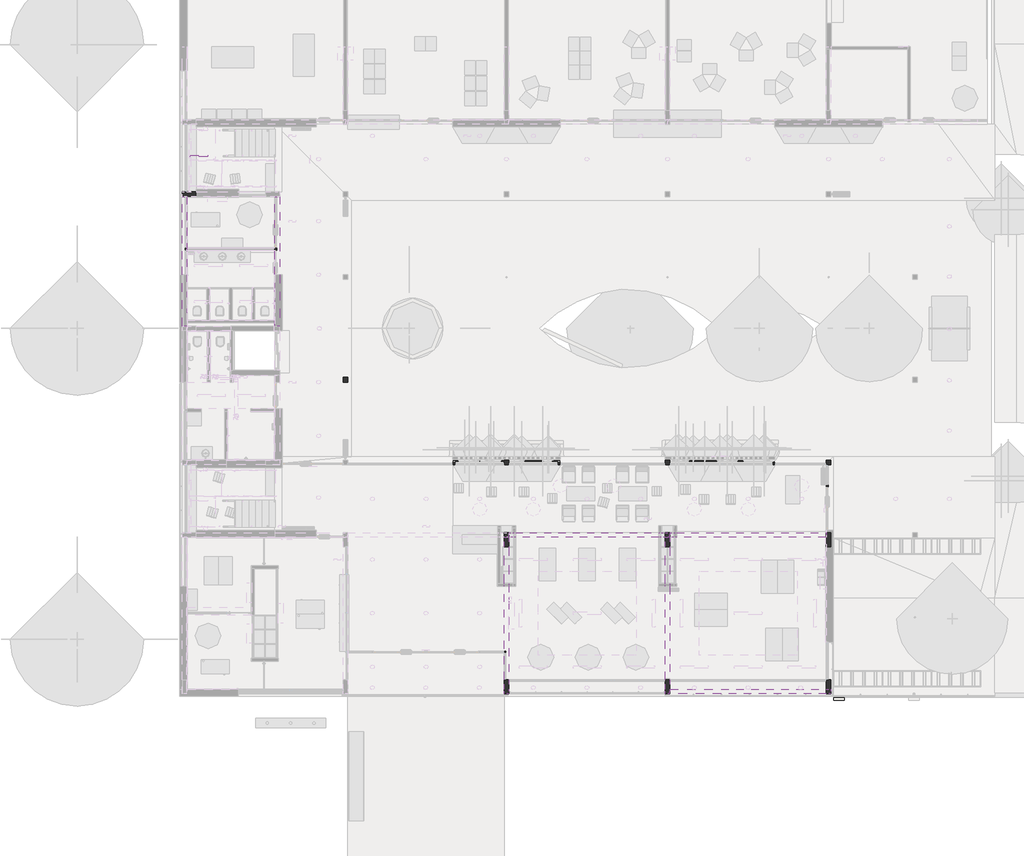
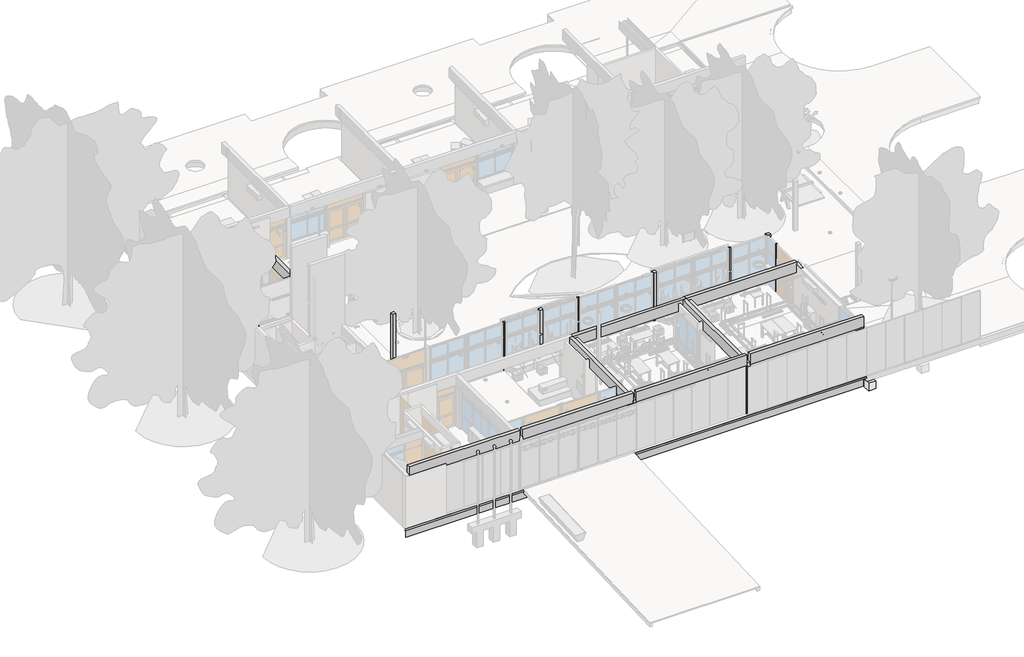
# One storey, part 13 of 22: 27 beams, 18 columns, 1 slab.
"""IFC4 building model written with IfcOpenShell, lengths in millimetres."""

from ifc_helpers import new_model, si_unit, frame, origin, origin_with_axes, place, context, project, spatial, polyline, outline, extrude, faceted_brep, transform, mapped, element, save
from components import perfil_upn_120_pet_31115f7d, pilar_acero_10x10cm_pet_07589721

model = new_model("IFC4")

# Units and contexts
model_context = context("Model", 3, world=origin())
ifc_project = project(units=[si_unit("LENGTHUNIT", "METRE", prefix="MILLI")], contexts=[model_context])

# Site, building, storey
site = spatial("IfcSite", under=ifc_project)
building = spatial("IfcBuilding", under=site)
storey = spatial("IfcBuildingStorey", under=building, Name="PLanta baja", Elevation=0.0)

# Beams
placement = place(None, origin())
element("IfcBeam", 1, ObjectType="ARES-I-HA-Viga con aleta-PET : Viga fundación-20x65cm-aleta11x11cm-PET", at=placement, inside=storey, context=model_context, shape_type="Brep", body=[
    faceted_brep([(3098.7173693, 230.2304035, -150.0), (3108.7173693, 240.2304035, -160.0), (31068.7173693, 240.2304035, -160.0), (31078.7173693, 230.2304035, -150.0), (3088.7173693, 220.2304035, -160.0), (31088.7173693, 220.2304035, -160.0), (3078.7173693, 210.2304035, -160.0), (31098.7173693, 210.2304035, -160.0), (3078.7173693, 210.2304035, -50.0), (31098.7173693, 210.2304035, -50.0), (3388.7173693, 520.2304035, -50.0), (30788.7173693, 520.2304035, -50.0), (27513.7173693, 520.2304035, -50.0), (27363.7173693, 520.2304035, -50.0), (24088.7173694, 520.2304035, -50.0), (23888.7173694, 520.2304035, -50.0), (20613.7173694, 520.2304035, -50.0), (20463.7173694, 520.2304035, -50.0), (17188.7173694, 520.2304035, -50.0), (16988.7173694, 520.2304035, -50.0), (13713.7173693, 520.2304035, -50.0), (13563.7173693, 520.2304035, -50.0), (10288.7173694, 520.2304035, -50.0), (10088.7173694, 520.2304035, -50.0), (6813.7173693, 520.2304035, -50.0), (6663.7173693, 520.2304035, -50.0), (3388.7173693, 520.2304035, -700.0), (30788.7173693, 520.2304035, -700.0), (24088.7173694, 520.2304035, -700.0), (23888.7173694, 520.2304035, -700.0), (17188.7173694, 520.2304035, -700.0), (16988.7173694, 520.2304035, -700.0), (10288.7173694, 520.2304035, -700.0), (10088.7173694, 520.2304035, -700.0), (3188.7173693, 320.2304035, -700.0), (30988.7173693, 320.2304035, -700.0), (3188.7173693, 320.2304035, -160.0), (30988.7173693, 320.2304035, -160.0)], [[[0, 1, 2, 3]], [[4, 0, 3, 5]], [[6, 4, 5, 7]], [[8, 6, 7, 9]], [[10, 8, 9, 11, 12, 13, 14, 15, 16, 17, 18, 19, 20, 21, 22, 23, 24, 25]], [[26, 10, 25, 24, 23, 22, 21, 20, 19, 18, 17, 16, 15, 14, 13, 12, 11, 27, 28, 29, 30, 31, 32, 33]], [[34, 26, 33, 32, 31, 30, 29, 28, 27, 35]], [[36, 34, 35, 37]], [[1, 36, 37, 2]], [[1, 0, 4, 6, 8, 10, 26, 34, 36]], [[2, 37, 35, 27, 11, 9, 7, 5, 3]]]),
])
element("IfcBeam", 2, ObjectType="ARES-I-HA-Viga con aleta-PET : Viga fundación-20x65cm-aleta11x11cm-PET", at=placement, inside=storey, context=model_context, shape_type="Brep", body=[
    faceted_brep([(31068.7173693, 7220.0804035, -160.0), (30988.7173693, 7220.0804035, -160.0), (30988.7173693, 7220.0804035, -300.0), (30988.7173693, 7220.0804035, -550.0), (30988.7173693, 7220.0804035, -700.0), (30788.7173693, 7220.0804035, -700.0), (30788.7173693, 7220.0804035, -550.0), (30788.7173693, 7220.0804035, -50.0), (30988.7173693, 7220.0804035, -50.0), (31098.7173693, 7220.0804035, -50.0), (31098.7173693, 7220.0804035, -160.0), (31088.7173693, 7220.0804035, -160.0), (31078.7173693, 7220.0804035, -150.0), (31078.7173693, 230.2304035, -150.0), (31068.7173693, 240.2304035, -160.0), (31088.7173693, 220.2304035, -160.0), (31098.7173693, 210.2304035, -160.0), (31098.7173693, 210.2304035, -50.0), (31098.7173693, 210.2304035, -54.9988162), (30788.7173693, 7020.2304035, -50.0), (30788.7173693, 6620.2304035, -50.0), (30788.7173693, 3843.5637368, -50.0), (30788.7173693, 3693.5637368, -50.0), (30788.7173693, 920.2304035, -50.0), (30788.7173693, 520.2304035, -50.0), (30788.7173693, 7020.2304035, -700.0), (30788.7173693, 520.2304035, -700.0), (30788.7173693, 520.2304035, -510.0), (30988.7173693, 7020.2304035, -700.0), (30988.7173693, 320.2304035, -700.0), (30988.7173693, 320.2304035, -160.0)], [[[0, 1, 2, 3, 4, 5, 6, 7, 8, 9, 10, 11, 12]], [[0, 12, 13, 14]], [[12, 11, 15, 13]], [[11, 10, 16, 15]], [[10, 9, 17, 18, 16]], [[9, 8, 7, 19, 20, 21, 22, 23, 24, 17]], [[7, 6, 5, 25, 26, 27, 24, 23, 22, 21, 20, 19]], [[5, 4, 28, 29, 26, 25]], [[4, 3, 2, 1, 30, 29, 28]], [[1, 0, 14, 30]], [[14, 13, 15, 16, 18, 17, 24, 27, 26, 29, 30]]]),
])
perfil_upn_120_pet_shape = perfil_upn_120_pet_31115f7d(model_context)
element("IfcBeam", 3, ObjectType="ARES-I-AC-UPN-Perfil acero-PET : Perfil UPN-120-PET", at=placement, inside=storey, context=model_context, shape_type="MappedRepresentation", body=[
    mapped(perfil_upn_120_pet_shape, transform((3910.6625244, 23364.2304035, 1673.8421053), x_axis=(-1.0, 0.0, 0.0), y_axis=(0.0, -1.0, 0.0), z_axis=(0.0, 0.0, 1.0))),
])
element("IfcBeam", 4, ObjectType="ARES-I-HA-Viga rectangular-PET : Viga-15x36cm-PET", at=placement, inside=storey, context=model_context, shape_type="Brep", body=[
    faceted_brep([(30788.7173693, 3693.5637368, -50.0), (30788.7173693, 3843.5637368, -50.0), (27513.7173693, 3843.5637368, -50.0), (27363.7173693, 3843.5637368, -50.0), (24088.7173694, 3843.5637368, -50.0), (24088.7173694, 3693.5637368, -50.0), (27363.7173693, 3693.5637368, -50.0), (27513.7173693, 3693.5637368, -50.0), (24088.7173694, 3693.5637368, -410.0), (27363.7173693, 3693.5637368, -410.0), (27513.7173693, 3693.5637368, -410.0), (30788.7173693, 3693.5637368, -410.0), (30788.7173693, 3693.5637368, -160.0), (24088.7173694, 3693.5637368, -160.0), (30788.7173693, 3843.5637368, -410.0), (24088.7173694, 3843.5637368, -410.0), (27363.7173693, 3843.5637368, -410.0), (27513.7173693, 3843.5637368, -410.0), (24088.7173694, 3843.5637368, -160.0), (30788.7173693, 3843.5637368, -160.0)], [[[0, 1, 2, 3, 4, 5, 6, 7]], [[8, 9, 10, 11, 12, 0, 7, 6, 5, 13]], [[14, 11, 10, 9, 8, 15, 16, 17]], [[14, 17, 16, 15, 18, 4, 3, 2, 1, 19]], [[1, 0, 12, 11, 14, 19]], [[5, 4, 18, 15, 8, 13]]]),
])
element("IfcBeam", 5, ObjectType="ARES-I-HA-Viga rectangular-PET : Viga-15x36cm-PET", at=placement, inside=storey, context=model_context, shape_type="Brep", body=[
    faceted_brep([(27513.7173693, 3693.5637368, -50.0), (27363.7173693, 3693.5637368, -50.0), (27363.7173693, 520.2304035, -50.0), (27513.7173693, 520.2304035, -50.0), (27363.7173693, 3693.5637368, -160.0), (27363.7173693, 3693.5637368, -410.0), (27363.7173693, 520.2304035, -410.0), (27363.7173693, 520.2304035, -160.0), (27513.7173693, 3693.5637368, -410.0), (27513.7173693, 520.2304035, -410.0), (27513.7173693, 520.2304035, -160.0), (27513.7173693, 3693.5637368, -160.0)], [[[0, 1, 2, 3]], [[2, 1, 4, 5, 6, 7]], [[5, 8, 9, 6]], [[0, 3, 10, 9, 8, 11]], [[8, 5, 4, 1, 0, 11]], [[3, 2, 7, 6, 9, 10]]]),
    faceted_brep([(27363.7173693, 3843.5637368, -410.0), (27513.7173693, 3843.5637368, -410.0), (27513.7173693, 3843.5637368, -160.0), (27513.7173693, 3843.5637368, -50.0), (27363.7173693, 3843.5637368, -50.0), (27363.7173693, 3843.5637368, -160.0), (27363.7173693, 7020.2304035, -50.0), (27363.7173693, 7020.2304035, -160.0), (27363.7173693, 7020.2304035, -410.0), (27513.7173693, 7020.2304035, -410.0), (27513.7173693, 7020.2304035, -160.0), (27513.7173693, 7020.2304035, -50.0)], [[[0, 1, 2, 3, 4, 5]], [[4, 6, 7, 8, 0, 5]], [[1, 0, 8, 9]], [[1, 9, 10, 11, 3, 2]], [[4, 3, 11, 6]], [[9, 8, 7, 6, 11, 10]]]),
])
element("IfcBeam", 6, ObjectType="ARES-I-HA-Viga rectangular-PET : Viga-15x36cm-PET", at=placement, inside=storey, context=model_context, shape_type="Brep", body=[
    faceted_brep([(17188.7173694, 3843.5637368, -50.0), (17188.7173694, 3693.5637368, -50.0), (20463.7173694, 3693.5637368, -50.0), (20613.7173694, 3693.5637368, -50.0), (23888.7173694, 3693.5637368, -50.0), (23888.7173694, 3843.5637368, -50.0), (20613.7173694, 3843.5637368, -50.0), (20463.7173694, 3843.5637368, -50.0), (17188.7173694, 3693.5637368, -410.0), (20463.7173694, 3693.5637368, -410.0), (20613.7173694, 3693.5637368, -410.0), (23888.7173694, 3693.5637368, -410.0), (23888.7173694, 3693.5637368, -160.0), (17188.7173694, 3693.5637368, -160.0), (17188.7173694, 3843.5637368, -410.0), (20463.7173694, 3843.5637368, -410.0), (20613.7173694, 3843.5637368, -410.0), (23888.7173694, 3843.5637368, -410.0), (17188.7173694, 3843.5637368, -160.0), (23888.7173694, 3843.5637368, -160.0)], [[[0, 1, 2, 3, 4, 5, 6, 7]], [[8, 9, 10, 11, 12, 4, 3, 2, 1, 13]], [[8, 14, 15, 16, 17, 11, 10, 9]], [[17, 16, 15, 14, 18, 0, 7, 6, 5, 19]], [[1, 0, 18, 14, 8, 13]], [[5, 4, 12, 11, 17, 19]]]),
])
element("IfcBeam", 7, ObjectType="ARES-I-HA-Viga rectangular-PET : Viga-15x36cm-PET", at=placement, inside=storey, context=model_context, shape_type="Brep", body=[
    faceted_brep([(20613.7173694, 3693.5637368, -50.0), (20463.7173694, 3693.5637368, -50.0), (20463.7173694, 520.2304035, -50.0), (20613.7173694, 520.2304035, -50.0), (20463.7173694, 3693.5637368, -160.0), (20463.7173694, 3693.5637368, -410.0), (20463.7173694, 520.2304035, -410.0), (20463.7173694, 520.2304035, -160.0), (20613.7173694, 3693.5637368, -410.0), (20613.7173694, 520.2304035, -410.0), (20613.7173694, 520.2304035, -160.0), (20613.7173694, 3693.5637368, -160.0)], [[[0, 1, 2, 3]], [[2, 1, 4, 5, 6, 7]], [[5, 8, 9, 6]], [[0, 3, 10, 9, 8, 11]], [[8, 5, 4, 1, 0, 11]], [[3, 2, 7, 6, 9, 10]]]),
    faceted_brep([(20463.7173694, 3843.5637368, -410.0), (20613.7173694, 3843.5637368, -410.0), (20613.7173694, 3843.5637368, -160.0), (20613.7173694, 3843.5637368, -50.0), (20463.7173694, 3843.5637368, -50.0), (20463.7173694, 3843.5637368, -160.0), (20463.7173694, 7020.2304035, -50.0), (20463.7173694, 7020.2304035, -160.0), (20463.7173694, 7020.2304035, -410.0), (20613.7173694, 7020.2304035, -410.0), (20613.7173694, 7020.2304035, -160.0), (20613.7173694, 7020.2304035, -50.0)], [[[0, 1, 2, 3, 4, 5]], [[4, 6, 7, 8, 0, 5]], [[1, 0, 8, 9]], [[1, 9, 10, 11, 3, 2]], [[4, 3, 11, 6]], [[9, 8, 7, 6, 11, 10]]]),
])
element("IfcBeam", 8, ObjectType="ARES-I-HA-Viga rectangular-PET : Viga-20x36cm-PET", at=placement, inside=storey, context=model_context, shape_type="Brep", body=[
    faceted_brep([(7368.7173694, 13870.2304035, -80.0), (7368.7173694, 13670.2304035, -80.0), (10088.7173694, 13670.2304035, -80.0), (10088.7173694, 13870.2304035, -80.0), (7368.7173694, 13670.2304035, -190.0), (7368.7173694, 13670.2304035, -440.0), (10088.7173694, 13670.2304035, -440.0), (10088.7173694, 13670.2304035, -190.0), (10088.7173694, 13870.2304035, -440.0), (7368.7173694, 13870.2304035, -440.0), (10088.7173694, 13870.2304035, -190.0), (7368.7173694, 13870.2304035, -190.0)], [[[0, 1, 2, 3]], [[2, 1, 4, 5, 6, 7]], [[8, 6, 5, 9]], [[0, 3, 10, 8, 9, 11]], [[6, 8, 10, 3, 2, 7]], [[1, 0, 11, 9, 5, 4]]]),
])
element("IfcBeam", 9, ObjectType="ARES-I-HA-Viga rectangular-PET : Viga-20x38cm-PET", at=placement, inside=storey, context=model_context, shape_type="Brep", body=[
    faceted_brep([(7171.4173693, 19420.2304035, -50.0), (7171.4173693, 19220.2304035, -50.0), (7171.4173693, 19220.2304035, -80.0), (7171.4173693, 19332.9304035, -80.0), (7171.4173693, 19332.9304035, -430.0), (7171.4173693, 19420.2304035, -430.0), (7168.7173694, 19420.2304035, -50.0), (3388.7173693, 19420.2304035, -50.0), (3388.7173693, 19220.2304035, -50.0), (3398.7173693, 19220.2304035, -50.0), (7168.7173694, 19220.2304035, -50.0), (3388.7173693, 19220.2304035, -246.259083), (3388.7173693, 19220.2304035, -300.0), (3388.7173693, 19220.2304035, -430.0), (3398.7173693, 19220.2304035, -430.0), (7168.7173694, 19220.2304035, -430.0), (7168.7173694, 19220.2304035, -300.0), (7168.7173694, 19220.2304035, -80.0), (3388.7173693, 19420.2304035, -430.0), (7168.7173694, 19420.2304035, -430.0), (7168.7173694, 19332.9304035, -430.0), (3388.7173693, 19420.2304035, -246.259083), (3388.7173693, 19420.2304035, -160.0), (7168.7173694, 19332.9304035, -80.0)], [[[0, 1, 2, 3, 4, 5]], [[1, 0, 6, 7, 8, 9, 10]], [[8, 11, 12, 13, 14, 15, 16, 17, 2, 1, 10, 9]], [[13, 18, 19, 5, 4, 20, 15, 14]], [[0, 5, 19, 18, 21, 22, 7, 6]], [[8, 7, 22, 21, 18, 13, 12, 11]], [[17, 23, 3, 2]], [[23, 17, 16, 15, 20]], [[3, 23, 20, 4]]]),
])
element("IfcBeam", 10, ObjectType="ARES-I-HA-Viga rectangular-PET : Viga-20x50cm-PET", at=placement, inside=storey, context=model_context, shape_type="Brep", body=[
    faceted_brep([(17188.7173694, 10120.2304035, -50.0), (16988.7173694, 10120.2304035, -50.0), (16988.7173694, 7220.2304035, -50.0), (17188.7173694, 7220.2304035, -50.0), (16988.7173694, 10120.2304035, -160.0), (16988.7173694, 10120.2304035, -510.0), (16988.7173694, 10120.2304035, -550.0), (16988.7173694, 7220.2304035, -550.0), (16988.7173694, 7220.2304035, -510.0), (16988.7173694, 7220.2304035, -160.0), (17188.7173694, 7220.2304035, -550.0), (17188.7173694, 10120.2304035, -550.0), (17188.7173694, 7220.2304035, -160.0), (17188.7173694, 7220.2304035, -510.0), (17188.7173694, 10120.2304035, -510.0), (17188.7173694, 10120.2304035, -160.0)], [[[0, 1, 2, 3]], [[2, 1, 4, 5, 6, 7, 8, 9]], [[10, 7, 6, 11]], [[0, 3, 12, 13, 10, 11, 14, 15]], [[7, 10, 13, 12, 3, 2, 9, 8]], [[1, 0, 15, 14, 11, 6, 5, 4]]]),
])
element("IfcBeam", 11, ObjectType="ARES-I-HA-Viga rectangular-PET : Viga-20x50cm-PET", at=placement, inside=storey, context=model_context, shape_type="Brep", body=[
    faceted_brep([(24088.7173694, 10120.2304035, -50.0), (23888.7173694, 10120.2304035, -50.0), (23888.7173694, 7220.2304035, -50.0), (24088.7173694, 7220.2304035, -50.0), (23888.7173694, 10120.2304035, -550.0), (23888.7173694, 7220.2304035, -550.0), (23888.7173694, 7220.2304035, -510.0), (23888.7173694, 7220.2304035, -160.0), (23888.7173694, 10120.2304035, -160.0), (23888.7173694, 10120.2304035, -510.0), (24088.7173694, 7220.2304035, -550.0), (24088.7173694, 10120.2304035, -550.0), (24088.7173694, 10120.2304035, -510.0), (24088.7173694, 10120.2304035, -160.0), (24088.7173694, 7220.2304035, -160.0), (24088.7173694, 7220.2304035, -510.0)], [[[0, 1, 2, 3]], [[4, 5, 6, 7, 2, 1, 8, 9]], [[10, 5, 4, 11]], [[10, 11, 12, 13, 0, 3, 14, 15]], [[5, 10, 15, 14, 3, 2, 7, 6]], [[1, 0, 13, 12, 11, 4, 9, 8]]]),
])
element("IfcBeam", 12, ObjectType="ARES-I-HA-Viga rectangular-PET : Viga-20x50cm-PET", at=placement, inside=storey, context=model_context, shape_type="Brep", body=[
    faceted_brep([(30988.7173693, 10320.2304035, -50.0), (30788.7173693, 10320.2304035, -50.0), (30788.7173693, 10120.2304035, -50.0), (30788.7173693, 7220.0804035, -50.0), (30801.4173693, 7220.0804035, -50.0), (30988.7173693, 7220.0804035, -50.0), (30788.7173693, 10320.2304035, -300.0), (30788.7173693, 10120.2304035, -300.0), (30788.7173693, 10120.2304035, -510.0), (30788.7173693, 10120.2304035, -550.0), (30788.7173693, 7220.0804035, -550.0), (30788.7173693, 7220.0804035, -510.0), (30788.7173693, 7220.0804035, -160.0), (30788.7173693, 10320.2304035, -160.0), (30988.7173693, 10120.2304035, -550.0), (30988.7173693, 7220.0804035, -550.0), (30988.7173693, 10120.2304035, -300.0), (30988.7173693, 10320.2304035, -300.0), (30988.7173693, 10320.2304035, -160.0), (30988.7173693, 7220.0804035, -160.0), (30988.7173693, 7220.0804035, -510.0), (30988.7173693, 10120.2304035, -510.0)], [[[0, 1, 2, 3, 4, 5]], [[6, 7, 8, 9, 10, 11, 12, 3, 2, 1, 13]], [[9, 14, 15, 10]], [[16, 17, 18, 0, 5, 19, 20, 15, 14, 21]], [[5, 4, 3, 12, 11, 10, 15, 20, 19]], [[1, 0, 18, 17, 6, 13]], [[16, 7, 6, 17]], [[7, 16, 21, 14, 9, 8]]]),
])
element("IfcBeam", 13, ObjectType="ARES-I-HA-Viga rectangular-PET : Viga-20x50cm-PET", at=placement, inside=storey, context=model_context, shape_type="Brep", body=[
    faceted_brep([(10088.7173694, 10320.2304035, -80.0), (10288.7173694, 10320.2304035, -80.0), (10288.7173694, 13670.2304035, -80.0), (10288.7173694, 13870.2304035, -80.0), (10288.7173694, 18070.2304035, -80.0), (10288.7173694, 18270.2304035, -80.0), (10288.7173694, 21620.2304035, -80.0), (10088.7173694, 21620.2304035, -80.0), (10088.7173694, 18270.2304035, -80.0), (10088.7173694, 18070.2304035, -80.0), (10088.7173694, 13870.2304035, -80.0), (10088.7173694, 13670.2304035, -80.0), (10088.7173694, 21620.2304035, -580.0), (10088.7173694, 10320.2304035, -580.0), (10088.7173694, 10320.2304035, -190.0), (10088.7173694, 21620.2304035, -190.0), (10288.7173694, 10320.2304035, -580.0), (10288.7173694, 21620.2304035, -580.0), (10288.7173694, 10320.2304035, -190.0), (10288.7173694, 10320.2304035, -540.0), (10288.7173694, 21620.2304035, -540.0), (10288.7173694, 21620.2304035, -190.0)], [[[0, 1, 2, 3, 4, 5, 6, 7, 8, 9, 10, 11]], [[12, 13, 14, 0, 11, 10, 9, 8, 7, 15]], [[16, 13, 12, 17]], [[6, 5, 4, 3, 2, 1, 18, 19, 16, 17, 20, 21]], [[1, 0, 14, 13, 16, 19, 18]], [[7, 6, 21, 20, 17, 12, 15]]]),
])
element("IfcBeam", 14, ObjectType="ARES-I-HA-Viga rectangular-PET : Viga-20x60cm-PET", at=placement, inside=storey, context=model_context, shape_type="Brep", body=[
    faceted_brep([(10088.7173694, 10320.2304035, -50.0), (10088.7173694, 10120.2304035, -50.0), (10288.7173694, 10120.2304035, -50.0), (14688.7173693, 10120.2304035, -50.0), (14988.7173693, 10120.2304035, -50.0), (16988.7173694, 10120.2304035, -50.0), (17188.7173694, 10120.2304035, -50.0), (19188.7173694, 10120.2304035, -50.0), (19488.7173694, 10120.2304035, -50.0), (23888.7173694, 10120.2304035, -50.0), (24088.7173694, 10120.2304035, -50.0), (28388.7173693, 10120.2304035, -50.0), (28688.7173693, 10120.2304035, -50.0), (30788.7173693, 10120.2304035, -50.0), (30788.7173693, 10320.2304035, -50.0), (24088.7173694, 10320.2304035, -50.0), (23888.7173694, 10320.2304035, -50.0), (17188.7173694, 10320.2304035, -50.0), (16988.7173694, 10320.2304035, -50.0), (10438.7173693, 10320.2304035, -50.0), (10088.7173694, 10120.2304035, -650.0), (30788.7173693, 10120.2304035, -650.0), (30788.7173693, 10120.2304035, -550.0), (30788.7173693, 10120.2304035, -510.0), (30788.7173693, 10120.2304035, -300.0), (30788.7173693, 10120.2304035, -160.0), (10088.7173694, 10120.2304035, -160.0), (10088.7173694, 10120.2304035, -410.0), (10088.7173694, 10120.2304035, -510.0), (10088.7173694, 10120.2304035, -550.0), (10088.7173694, 10320.2304035, -650.0), (30788.7173693, 10320.2304035, -650.0), (10088.7173694, 10320.2304035, -580.0), (10088.7173694, 10320.2304035, -540.0), (10088.7173694, 10320.2304035, -410.0), (10088.7173694, 10320.2304035, -80.0), (30788.7173693, 10320.2304035, -160.0), (30788.7173693, 10320.2304035, -300.0), (30788.7173693, 10320.2304035, -510.0)], [[[0, 1, 2, 3, 4, 5, 6, 7, 8, 9, 10, 11, 12, 13, 14, 15, 16, 17, 18, 19]], [[20, 21, 22, 23, 24, 25, 13, 12, 11, 10, 9, 8, 7, 6, 5, 4, 3, 2, 1, 26, 27, 28, 29]], [[20, 30, 31, 21]], [[30, 32, 33, 34, 35, 0, 19, 18, 17, 16, 15, 14, 36, 37, 38, 31]], [[1, 0, 35, 34, 33, 32, 30, 20, 29, 28, 27, 26]], [[21, 31, 38, 37, 36, 14, 13, 25, 24, 23, 22]]]),
])
element("IfcBeam", 15, ObjectType="ARES-I-HA-Viga rectangular-PET : Viga-20x65cm-PET", at=placement, inside=storey, context=model_context, shape_type="Brep", body=[
    faceted_brep([(17188.7173694, 7120.2304035, -50.0), (16988.7173694, 7120.2304035, -50.0), (16988.7173694, 7020.2304035, -50.0), (16988.7173694, 3843.5637368, -50.0), (16988.7173694, 3693.5637368, -50.0), (16988.7173694, 520.2304035, -50.0), (17188.7173694, 520.2304035, -50.0), (17188.7173694, 3693.5637368, -50.0), (17188.7173694, 3843.5637368, -50.0), (17188.7173694, 7020.2304035, -50.0), (16988.7173694, 7120.2304035, -700.0), (16988.7173694, 7020.2304035, -700.0), (16988.7173694, 520.2304035, -700.0), (16988.7173694, 520.2304035, -510.0), (16988.7173694, 520.2304035, -160.0), (17188.7173694, 7120.2304035, -700.0), (17188.7173694, 7020.2304035, -700.0), (17188.7173694, 520.2304035, -700.0), (17188.7173694, 520.2304035, -160.0), (17188.7173694, 520.2304035, -510.0)], [[[0, 1, 2, 3, 4, 5, 6, 7, 8, 9]], [[1, 10, 11, 12, 13, 14, 5, 4, 3, 2]], [[10, 15, 16, 17, 12, 11]], [[15, 0, 9, 8, 7, 6, 18, 19, 17, 16]], [[6, 5, 14, 13, 12, 17, 19, 18]], [[0, 15, 10, 1]]]),
])
element("IfcBeam", 16, ObjectType="ARES-I-HA-Viga rectangular-PET : Viga-20x65cm-PET", at=placement, inside=storey, context=model_context, shape_type="Brep", body=[
    faceted_brep([(24088.7173694, 7120.2304035, -50.0), (23888.7173694, 7120.2304035, -50.0), (23888.7173694, 7020.2304035, -50.0), (23888.7173694, 3843.5637368, -50.0), (23888.7173694, 3693.5637368, -50.0), (23888.7173694, 520.2304035, -50.0), (24088.7173694, 520.2304035, -50.0), (24088.7173694, 3693.5637368, -50.0), (24088.7173694, 3843.5637368, -50.0), (24088.7173694, 7020.2304035, -50.0), (23888.7173694, 7120.2304035, -700.0), (23888.7173694, 7020.2304035, -700.0), (23888.7173694, 520.2304035, -700.0), (23888.7173694, 520.2304035, -510.0), (23888.7173694, 520.2304035, -160.0), (24088.7173694, 7120.2304035, -700.0), (24088.7173694, 7020.2304035, -700.0), (24088.7173694, 520.2304035, -700.0), (24088.7173694, 520.2304035, -160.0), (24088.7173694, 520.2304035, -510.0)], [[[0, 1, 2, 3, 4, 5, 6, 7, 8, 9]], [[1, 10, 11, 12, 13, 14, 5, 4, 3, 2]], [[10, 15, 16, 17, 12, 11]], [[15, 0, 9, 8, 7, 6, 18, 19, 17, 16]], [[6, 5, 14, 13, 12, 17, 19, 18]], [[0, 15, 10, 1]]]),
])
element("IfcBeam", 17, ObjectType="ARES-I-HA-Viga rectangular-PET : Viga-20x65cm-PET", at=placement, inside=storey, context=model_context, shape_type="Brep", body=[
    faceted_brep([(30801.4173693, 7220.2304035, -50.0), (30801.4173693, 7020.2304035, -50.0), (30801.4173693, 7020.2304035, -700.0), (30801.4173693, 7220.2304035, -700.0), (30788.7173693, 7220.2304035, -50.0), (28688.7173693, 7220.2304035, -50.0), (28388.7173693, 7220.2304035, -50.0), (24088.7173694, 7220.2304035, -50.0), (24088.4070293, 7220.2304035, -50.0), (23888.7173694, 7220.2304035, -50.0), (23888.4070293, 7220.2304035, -50.0), (19488.7173694, 7220.2304035, -50.0), (19188.7173694, 7220.2304035, -50.0), (17188.7173694, 7220.2304035, -50.0), (16988.7173694, 7220.2304035, -50.0), (14988.7173693, 7220.2304035, -50.0), (14688.7173693, 7220.2304035, -50.0), (10288.7173694, 7220.2304035, -50.0), (10088.7173694, 7220.2304035, -50.0), (7368.7173694, 7220.2304035, -50.0), (7168.7173694, 7220.2304035, -50.0), (3388.7173693, 7220.2304035, -50.0), (3288.7173693, 7220.2304035, -50.0), (3288.7173693, 7020.2304035, -50.0), (3388.7173693, 7020.2304035, -50.0), (6663.7173693, 7020.2304035, -50.0), (6813.7173693, 7020.2304035, -50.0), (10088.7173694, 7020.2304035, -50.0), (10088.7173694, 7080.2304035, -50.0), (10288.7173694, 7080.2304035, -50.0), (10288.7173694, 7020.2304035, -50.0), (13563.7173693, 7020.2304035, -50.0), (13713.7173693, 7020.2304035, -50.0), (16988.7173694, 7020.2304035, -50.0), (16988.7173694, 7120.2304035, -50.0), (17188.7173694, 7120.2304035, -50.0), (17188.7173694, 7020.2304035, -50.0), (20463.7173694, 7020.2304035, -50.0), (20613.7173694, 7020.2304035, -50.0), (23888.7173694, 7020.2304035, -50.0), (23888.7173694, 7120.2304035, -50.0), (24088.7173694, 7120.2304035, -50.0), (24088.7173694, 7020.2304035, -50.0), (27363.7173693, 7020.2304035, -50.0), (27513.7173693, 7020.2304035, -50.0), (30788.7173693, 7020.2304035, -50.0), (24088.7173694, 7020.2304035, -160.0), (24088.7173694, 7020.2304035, -510.0), (24088.7173694, 7020.2304035, -700.0), (30788.7173693, 7020.2304035, -700.0), (24088.7173694, 7120.2304035, -700.0), (23888.7173694, 7120.2304035, -700.0), (23888.7173694, 7020.2304035, -700.0), (17188.7173694, 7020.2304035, -700.0), (17188.7173694, 7120.2304035, -700.0), (16988.7173694, 7120.2304035, -700.0), (16988.7173694, 7020.2304035, -700.0), (10288.7173694, 7020.2304035, -700.0), (10288.7173694, 7080.2304035, -700.0), (10088.7173694, 7080.2304035, -700.0), (10088.7173694, 7020.2304035, -700.0), (3388.7173693, 7020.2304035, -700.0), (3288.7173693, 7020.2304035, -700.0), (3288.7173693, 7220.2304035, -700.0), (3388.7173693, 7220.2304035, -700.0), (7368.7173694, 7220.2304035, -700.0), (16988.7173694, 7020.2304035, -160.0), (16988.7173694, 7020.2304035, -510.0), (17188.7173694, 7020.2304035, -510.0), (17188.7173694, 7020.2304035, -160.0), (10288.7173694, 7020.2304035, -160.0), (10288.7173694, 7020.2304035, -510.0), (23888.7173694, 7020.2304035, -160.0), (23888.7173694, 7020.2304035, -510.0), (10088.7173694, 7020.2304035, -160.0), (10088.7173694, 7020.2304035, -510.0)], [[[0, 1, 2, 3]], [[1, 0, 4, 5, 6, 7, 8, 9, 10, 11, 12, 13, 14, 15, 16, 17, 18, 19, 20, 21, 22, 23, 24, 25, 26, 27, 28, 29, 30, 31, 32, 33, 34, 35, 36, 37, 38, 39, 40, 41, 42, 43, 44, 45]], [[2, 1, 45, 44, 43, 42, 46, 47, 48, 49]], [[3, 2, 49, 48, 50, 51, 52, 53, 54, 55, 56, 57, 58, 59, 60, 61, 62, 63, 64, 65]], [[0, 3, 65, 64, 63, 22, 21, 20, 19, 18, 17, 16, 15, 14, 13, 12, 11, 10, 9, 8, 7, 6, 5, 4]], [[55, 34, 33, 66, 67, 56]], [[35, 54, 53, 68, 69, 36]], [[34, 55, 54, 35]], [[57, 56, 67, 66, 33, 32, 31, 30, 70, 71]], [[51, 40, 39, 72, 73, 52]], [[41, 50, 48, 47, 46, 42]], [[40, 51, 50, 41]], [[53, 52, 73, 72, 39, 38, 37, 36, 69, 68]], [[59, 28, 27, 74, 75, 60]], [[29, 58, 57, 71, 70, 30]], [[28, 59, 58, 29]], [[62, 61, 60, 75, 74, 27, 26, 25, 24, 23]], [[22, 63, 62, 23]]]),
])
element("IfcBeam", 18, ObjectType="ARES-I-HA-Viga rectangular-PET : Viga-20x66cm-PET", at=placement, inside=storey, context=model_context, shape_type="Brep", body=[
    faceted_brep([(24088.7173694, 7020.2304035, 3260.0), (24088.7173694, 7220.2304035, 3260.0), (23888.7173694, 7220.2304035, 3260.0), (17188.7173694, 7220.2304035, 3260.0), (17188.7173694, 7020.2304035, 3260.0), (23888.7173694, 7020.2304035, 3260.0), (24088.7173694, 7020.2304035, 2600.0), (24088.7173694, 7020.2304035, 3100.0), (17188.7173694, 7020.2304035, 3100.0), (17188.7173694, 7020.2304035, 2600.0), (17358.7173693, 7020.2304035, 2600.0), (17473.7173693, 7020.2304035, 2600.0), (23603.0966893, 7020.2304035, 2600.0), (23718.0966893, 7020.2304035, 2600.0), (23888.7173694, 7020.2304035, 2600.0), (24088.7173694, 7220.2304035, 2600.0), (17188.7173694, 7220.2304035, 2600.0), (17358.7173693, 7220.2304035, 2600.0), (17473.7173693, 7220.2304035, 2600.0), (23603.0966893, 7220.2304035, 2600.0), (23718.0966893, 7220.2304035, 2600.0), (23888.4070293, 7220.2304035, 2600.0), (24088.4070293, 7220.2304035, 2600.0), (24088.7173694, 7220.2304035, 3100.0)], [[[0, 1, 2, 3, 4, 5]], [[6, 7, 0, 5, 4, 8, 9, 10, 11, 12, 13, 14]], [[15, 6, 14, 13, 12, 11, 10, 9, 16, 17, 18, 19, 20, 21, 22]], [[1, 23, 15, 22, 21, 20, 19, 18, 17, 16, 3, 2]], [[1, 0, 7, 6, 15, 23]], [[4, 3, 16, 9, 8]]]),
])
element("IfcBeam", 19, ObjectType="ARES-I-HA-Viga rectangular-PET : Viga-20x66cm-PET", at=placement, inside=storey, context=model_context, shape_type="Brep", body=[
    faceted_brep([(30789.7173693, 7020.2304035, 3260.0), (30789.7173693, 7220.2304035, 3260.0), (24088.7173694, 7220.2304035, 3260.0), (24088.7173694, 7020.2304035, 3260.0), (30788.7173693, 7020.2304035, 3260.0), (30788.7173693, 7020.2304035, 2600.0), (30788.7173693, 7020.2304035, 3100.0), (30789.7173693, 7020.2304035, 3100.0), (24088.7173694, 7020.2304035, 3100.0), (24088.7173694, 7020.2304035, 2600.0), (24258.7173693, 7020.2304035, 2600.0), (24373.7173693, 7020.2304035, 2600.0), (30773.7173693, 7020.2304035, 2600.0), (30788.7173693, 7220.2304035, 2600.0), (24088.7173694, 7220.2304035, 2600.0), (24258.7173693, 7220.2304035, 2600.0), (24373.7173693, 7220.2304035, 2600.0), (30773.7173693, 7220.2304035, 2600.0), (30788.7173693, 7220.2304035, 3100.0), (30789.7173693, 7220.2304035, 3100.0)], [[[0, 1, 2, 3, 4]], [[5, 6, 7, 0, 4, 3, 8, 9, 10, 11, 12]], [[13, 5, 12, 11, 10, 9, 14, 15, 16, 17]], [[18, 13, 17, 16, 15, 14, 2, 1, 19]], [[1, 0, 7, 19]], [[6, 5, 13, 18]], [[6, 18, 19, 7]], [[3, 2, 14, 9, 8]]]),
])
element("IfcBeam", 20, ObjectType="ARES-I-HA-Viga rectangular-PET : Viga-20x66cm-PET", at=placement, inside=storey, context=model_context, shape_type="Brep", body=[
    faceted_brep([(16988.7173694, 320.2304035, 3260.0), (17188.7173694, 320.2304035, 3260.0), (17188.7173694, 520.2304035, 3260.0), (17188.7173694, 920.2304035, 3260.0), (17188.7173694, 4270.2304035, 3260.0), (17188.7173694, 4428.2304035, 3260.0), (17188.7173694, 6620.2304035, 3260.0), (17188.7173694, 7020.2304035, 3260.0), (16988.7173694, 7020.2304035, 3260.0), (16988.7173694, 6620.2304035, 3260.0), (16988.7173694, 920.2304035, 3260.0), (16988.7173694, 520.2304035, 3260.0), (16988.7173694, 320.2304035, 2600.0), (16988.7173694, 320.2304035, 3100.0), (16988.7173694, 7020.2304035, 3100.0), (16988.7173694, 7020.2304035, 2600.0), (16988.7173694, 5033.5637368, 2600.0), (16988.7173694, 4918.5637368, 2600.0), (17188.7173694, 320.2304035, 2600.0), (17188.7173694, 7020.2304035, 2600.0), (17188.7173694, 5033.5637368, 2600.0), (17188.7173694, 4918.5637368, 2600.0), (17188.7173694, 320.2304035, 3100.0), (17188.7173694, 7020.2304035, 3100.0)], [[[0, 1, 2, 3, 4, 5, 6, 7, 8, 9, 10, 11]], [[12, 13, 0, 11, 10, 9, 8, 14, 15, 16, 17]], [[18, 12, 17, 16, 15, 19, 20, 21]], [[1, 22, 18, 21, 20, 19, 23, 7, 6, 5, 4, 3, 2]], [[1, 0, 13, 12, 18, 22]], [[8, 7, 23, 19, 15, 14]]]),
])
element("IfcBeam", 21, ObjectType="ARES-I-HA-Viga rectangular-PET : Viga-20x66cm-PET", at=placement, inside=storey, context=model_context, shape_type="Brep", body=[
    faceted_brep([(24088.7173694, 320.2304035, 3260.0), (23888.7173694, 320.2304035, 3260.0), (23888.7173694, 320.2304035, 3100.0), (23888.7173694, 320.2304035, 2600.0), (24088.7173694, 320.2304035, 2600.0), (24088.7173694, 320.2304035, 3100.0), (24088.7173694, 520.2304035, 3260.0), (24088.7173694, 920.2304035, 3260.0), (24088.7173694, 6620.2304035, 3260.0), (24088.7173694, 7020.2304035, 3260.0), (23888.7173694, 7020.2304035, 3260.0), (23888.7173694, 6620.2304035, 3260.0), (23888.7173694, 920.2304035, 3260.0), (23888.7173694, 520.2304035, 3260.0), (23888.7173694, 7020.2304035, 3100.0), (23888.7173694, 7020.2304035, 2600.0), (23888.7173694, 5033.5637368, 2600.0), (23888.7173694, 4918.5637368, 2600.0), (24088.7173694, 7020.2304035, 2600.0), (24088.7173694, 5033.5637368, 2600.0), (24088.7173694, 4918.5637368, 2600.0), (24088.7173694, 7020.2304035, 3100.0)], [[[0, 1, 2, 3, 4, 5]], [[1, 0, 6, 7, 8, 9, 10, 11, 12, 13]], [[2, 1, 13, 12, 11, 10, 14, 15, 16, 17, 3]], [[4, 3, 17, 16, 15, 18, 19, 20]], [[5, 4, 20, 19, 18, 21, 9, 8, 7, 6, 0]], [[10, 9, 21, 18, 15, 14]]]),
])
element("IfcBeam", 22, ObjectType="ARES-I-HA-Viga rectangular-PET : Viga-20x66cm-PET", at=placement, inside=storey, context=model_context, shape_type="Brep", body=[
    faceted_brep([(7368.7173693, 21619.728492, 2600.0), (7168.7173693, 21619.728492, 2600.0), (7168.7173693, 21619.728492, 3100.0), (7168.7173693, 21619.728492, 3260.0), (7368.7173693, 21619.728492, 3260.0), (7368.7173693, 21619.728492, 3100.0), (7168.7173693, 16070.2304035, 3260.0), (7368.7173693, 16070.2304035, 3260.0), (7168.7173693, 18270.2304035, 2600.0), (7168.7173693, 16070.2304035, 2600.0), (7168.7173693, 16070.2304035, 3100.0), (7368.7173693, 18270.2304035, 2600.0), (7368.7173693, 16070.2304035, 2600.0)], [[[0, 1, 2, 3, 4, 5]], [[4, 3, 6, 7]], [[2, 1, 8, 9, 10, 6, 3]], [[1, 0, 11, 12, 9, 8]], [[5, 4, 7, 12, 11, 0]], [[7, 6, 10, 9, 12]]]),
])
element("IfcBeam", 23, ObjectType="ARES-I-HA-Viga rectangular-PET : Viga-20x66cm-PET", at=placement, inside=storey, context=model_context, shape_type="Brep", body=[
    faceted_brep([(3388.7173693, 21620.2304035, 3260.0), (3188.7173693, 21620.2304035, 3260.0), (3188.7173693, 16070.2304035, 3260.0), (3388.7173693, 16070.2304035, 3260.0), (3188.7173693, 21620.2304035, 2600.0), (3188.7173693, 18270.2304035, 2600.0), (3188.7173693, 16070.2304035, 2600.0), (3388.7173693, 21620.2304035, 2600.0), (3388.7173693, 18270.2304035, 2600.0), (3388.7173693, 16070.2304035, 2600.0), (3388.7173693, 21620.2304035, 3100.0), (3388.7173693, 16070.2304035, 3100.0)], [[[0, 1, 2, 3]], [[1, 4, 5, 6, 2]], [[4, 7, 8, 9, 6, 5]], [[7, 10, 0, 3, 11, 9, 8]], [[4, 1, 0, 10, 7]], [[3, 2, 6, 9, 11]]]),
])
element("IfcBeam", 24, ObjectType="ARES-I-HA-Viga rectangular-PET : Viga-20x66cm-PET", at=placement, inside=storey, context=model_context, shape_type="Brep", body=[
    faceted_brep([(10088.7173694, 320.2304035, 3760.0), (10088.7173694, 520.2304035, 3760.0), (5588.7173693, 520.2304035, 3760.0), (3388.7173693, 520.2304035, 3760.0), (3388.7173693, 320.2304035, 3760.0), (5588.7173693, 320.2304035, 3760.0), (3388.7173693, 320.2304035, 3260.0), (3388.7173693, 320.2304035, 3100.0), (10088.7173694, 320.2304035, 3100.0), (10088.7173694, 320.2304035, 3260.0), (3388.7173693, 510.2304035, 3100.0), (3388.7173693, 520.2304035, 3100.0), (10088.7173694, 520.2304035, 3100.0), (3388.7173693, 520.2304035, 3260.0), (10088.7173694, 520.2304035, 3260.0)], [[[0, 1, 2, 3, 4, 5]], [[4, 6, 7, 8, 9, 0, 5]], [[7, 10, 11, 12, 8]], [[11, 13, 3, 2, 1, 14, 12]], [[1, 0, 9, 8, 12, 14]], [[11, 10, 7, 6, 4, 3, 13]]]),
    faceted_brep([(10288.7173694, 320.2304035, 3760.0), (10288.7173694, 520.2304035, 3760.0), (10288.7173694, 520.2304035, 3260.0), (10288.7173694, 520.2304035, 3100.0), (10288.7173694, 320.2304035, 3100.0), (10288.7173694, 320.2304035, 3260.0), (16988.7173694, 320.2304035, 3760.0), (16988.7173694, 320.2304035, 3260.0), (16988.7173694, 320.2304035, 3100.0), (16988.7173694, 520.2304035, 3100.0), (16988.7173694, 520.2304035, 3260.0), (16988.7173694, 520.2304035, 3760.0), (12488.7173694, 320.2304035, 3760.0), (12488.7173694, 520.2304035, 3760.0)], [[[0, 1, 2, 3, 4, 5]], [[6, 7, 8, 9, 10, 11]], [[0, 5, 4, 8, 7, 6, 12]], [[3, 2, 1, 13, 11, 10, 9]], [[1, 0, 12, 6, 11, 13]], [[4, 3, 9, 8]]]),
    faceted_brep([(17188.7173694, 520.2304035, 3760.0), (17188.7173694, 520.2304035, 3260.0), (17188.7173694, 520.2304035, 3100.0), (17188.7173694, 320.2304035, 3100.0), (17188.7173694, 320.2304035, 3260.0), (17188.7173694, 320.2304035, 3760.0), (23888.7173694, 520.2304035, 3760.0), (23888.7173694, 320.2304035, 3760.0), (23888.7173694, 320.2304035, 3260.0), (23888.7173694, 320.2304035, 3100.0), (23888.7173694, 520.2304035, 3100.0), (23888.7173694, 520.2304035, 3260.0), (19388.7173693, 320.2304035, 3760.0), (19388.7173693, 520.2304035, 3760.0)], [[[0, 1, 2, 3, 4, 5]], [[6, 7, 8, 9, 10, 11]], [[9, 8, 7, 12, 5, 4, 3]], [[0, 5, 12, 7, 6, 13]], [[6, 11, 10, 2, 1, 0, 13]], [[2, 10, 9, 3]]]),
    faceted_brep([(24088.7173694, 520.2304035, 3100.0), (24088.7173694, 320.2304035, 3100.0), (24088.7173694, 320.2304035, 3260.0), (24088.7173694, 320.2304035, 3760.0), (24088.7173694, 520.2304035, 3760.0), (24088.7173694, 520.2304035, 3260.0), (30988.7173693, 320.2304035, 3760.0), (30988.7173693, 520.2304035, 3760.0), (26288.7173693, 520.2304035, 3760.0), (26288.7173693, 320.2304035, 3760.0), (30788.7173693, 320.2304035, 3760.0), (30988.7173693, 520.2304035, 3100.0), (30988.7173693, 320.2304035, 3100.0), (30788.7173693, 320.2304035, 3100.0), (30788.7173693, 520.2304035, 3100.0), (30988.7173693, 320.2304035, 3260.0), (30988.7173693, 520.2304035, 3260.0)], [[[0, 1, 2, 3, 4, 5]], [[6, 7, 8, 4, 3, 9, 10]], [[11, 12, 13, 1, 0, 14]], [[3, 2, 1, 13, 12, 15, 6, 10, 9]], [[7, 6, 15, 12, 11, 16]], [[0, 5, 4, 8, 7, 16, 11, 14]]]),
])
element("IfcBeam", 25, ObjectType="ARES-I-HA-Viga rectangular-PET : Viga-30x36cm-PET", at=placement, inside=storey, context=model_context, shape_type="Brep", body=[
    faceted_brep([(19488.7173694, 10120.2304035, -410.0), (19188.7173694, 10120.2304035, -410.0), (19188.7173694, 10120.2304035, -160.0), (19188.7173694, 10120.2304035, -50.0), (19488.7173694, 10120.2304035, -50.0), (19488.7173694, 10120.2304035, -160.0), (19188.7173694, 7220.2304035, -50.0), (19488.7173694, 7220.2304035, -50.0), (19188.7173694, 7220.2304035, -410.0), (19188.7173694, 7220.2304035, -160.0), (19488.7173694, 7220.2304035, -410.0), (19488.7173694, 7220.2304035, -160.0)], [[[0, 1, 2, 3, 4, 5]], [[4, 3, 6, 7]], [[6, 3, 2, 1, 8, 9]], [[1, 0, 10, 8]], [[4, 7, 11, 10, 0, 5]], [[8, 10, 11, 7, 6, 9]]]),
])
element("IfcBeam", 26, ObjectType="ARES-I-HA-Viga rectangular-PET : Viga-30x36cm-PET", at=placement, inside=storey, context=model_context, shape_type="Brep", body=[
    faceted_brep([(28688.7173693, 10120.2304035, -410.0), (28388.7173693, 10120.2304035, -410.0), (28388.7173693, 10120.2304035, -160.0), (28388.7173693, 10120.2304035, -50.0), (28688.7173693, 10120.2304035, -50.0), (28688.7173693, 10120.2304035, -160.0), (28388.7173693, 7220.2304035, -50.0), (28688.7173693, 7220.2304035, -50.0), (28388.7173693, 7220.2304035, -410.0), (28388.7173693, 7220.2304035, -160.0), (28688.7173693, 7220.2304035, -410.0), (28688.7173693, 7220.2304035, -160.0)], [[[0, 1, 2, 3, 4, 5]], [[4, 3, 6, 7]], [[6, 3, 2, 1, 8, 9]], [[1, 0, 10, 8]], [[4, 7, 11, 10, 0, 5]], [[8, 10, 11, 7, 6, 9]]]),
])
element("IfcBeam", 27, ObjectType="ARES-I-HA-Viga rectangular-PET : Viga-8x18cm-PET", at=placement, inside=storey, context=model_context, shape_type="Brep", body=[
    faceted_brep([(6113.9673694, 18890.2304035, 770.0), (6113.9673694, 18810.2304035, 770.0), (6113.9673694, 18810.2304035, 590.0), (6113.9673694, 18890.2304035, 590.0), (3713.5673694, 18890.2304035, 770.0), (3713.5673694, 18890.2304035, 590.0), (3713.5673694, 18810.2304035, 590.0), (3713.5673694, 18810.2304035, 770.0), (6113.7173694, 18890.2304035, 770.0), (5993.7173694, 18890.2304035, 770.0), (3833.8731174, 18890.2304035, 770.0), (3713.8731174, 18890.2304035, 770.0), (6113.7173694, 18810.2304035, 770.0)], [[[0, 1, 2, 3]], [[4, 5, 6, 7]], [[1, 0, 8, 9, 10, 11, 4, 7, 12]], [[2, 1, 12, 7, 6]], [[3, 2, 6, 5]], [[0, 3, 5, 4, 11, 10, 9, 8]]]),
])

# Columns
element("IfcColumn", 28, ObjectType="Parante aluminio : Parante aluminio 75x75 mm", at=placement, inside=storey, context=model_context, shape_type="SweptSolid", body=[
    extrude(outline(polyline([(17063.7173694, 2145.2304035), (17063.7173694, 2070.2304035), (16988.7173694, 2070.2304035), (16988.7173694, 2145.2304035), (17063.7173694, 2145.2304035)])), origin_with_axes(), (0.0, 0.0, 1.0), 2610.0),
])
element("IfcColumn", 29, ObjectType="Parante aluminio : Parante aluminio 75x75 mm", at=placement, inside=storey, context=model_context, shape_type="SweptSolid", body=[
    extrude(outline(polyline([(30863.7173693, 9257.7304035), (30863.7173693, 9182.7304035), (30788.7173693, 9182.7304035), (30788.7173693, 9257.7304035), (30863.7173693, 9257.7304035)])), origin_with_axes(), (0.0, 0.0, 1.0), 3100.0),
])
element("IfcColumn", 30, ObjectType="Parante aluminio : Parante aluminio 100x100 mm", at=placement, inside=storey, context=model_context, shape_type="SweptSolid", body=[
    extrude(outline(polyline([(0.0, 3313.7173694), (0.0, 3413.7173694), (2610.0, 3413.7173694), (2610.0, 3408.7173694), (2600.0, 3408.7173694), (2600.0, 3393.7173694), (2610.0, 3393.7173694), (2610.0, 3313.7173694), (0.0, 3313.7173694)])), frame((0.0, 19320.2304035, 0.0), z_axis=(0.0, 1.0, 0.0), x_axis=(0.0, 0.0, 1.0)), (0.0, 0.0, 1.0), 100.0),
])
element("IfcColumn", 31, ObjectType="Parante aluminio : Parante aluminio 100x100 mm", at=placement, inside=storey, context=model_context, shape_type="SweptSolid", body=[
    extrude(outline(polyline([(7234.7173694, 19420.2304035), (7234.7173694, 19320.2304035), (7134.7173694, 19320.2304035), (7134.7173694, 19420.2304035), (7234.7173694, 19420.2304035)])), origin_with_axes(), (0.0, 0.0, 1.0), 2610.0),
])
element("IfcColumn", 32, ObjectType="PIES-RECT-AC-PET : Pilar Acero-10x10cm-PET", at=placement, inside=storey, context=model_context, shape_type="SweptSolid", body=[
    extrude(outline(polyline([(28588.7173693, 10220.2304035), (28588.7173693, 10120.2304035), (28488.7173693, 10120.2304035), (28488.7173693, 10220.2304035), (28588.7173693, 10220.2304035)])), frame((0.0, 0.0, -50.0), z_axis=(0.0, 0.0, 1.0), x_axis=(1.0, 0.0, 0.0)), (0.0, 0.0, 1.0), 3150.0),
])
pilar_acero_10x10cm_pet_shape = pilar_acero_10x10cm_pet_07589721(model_context)
element("IfcColumn", 33, ObjectType="PIES-RECT-AC-PET : Pilar Acero-10x10cm-PET", at=placement, inside=storey, context=model_context, shape_type="MappedRepresentation", body=[
    mapped(pilar_acero_10x10cm_pet_shape, transform((14838.7173693, 10170.2304035, 0.0), x_axis=(1.0, 0.0, 0.0), y_axis=(0.0, 1.0, 0.0), z_axis=(0.0, 0.0, 1.0))),
])
element("IfcColumn", 34, ObjectType="PIES-RECT-AC-PET : Pilar Acero-10x10cm-PET", at=placement, inside=storey, context=model_context, shape_type="MappedRepresentation", body=[
    mapped(pilar_acero_10x10cm_pet_shape, transform((19338.7173694, 10170.2304035, 0.0), x_axis=(1.0, 0.0, 0.0), y_axis=(0.0, 1.0, 0.0), z_axis=(0.0, 0.0, 1.0))),
])
element("IfcColumn", 35, ObjectType="PIES-RECT-HA-PET : Pilar HA-20x20cm-PET", at=placement, inside=storey, context=model_context, shape_type="SweptSolid", body=[
    extrude(outline(polyline([(17188.7173694, 10320.2304035), (17188.7173694, 10120.2304035), (16988.7173694, 10120.2304035), (16988.7173694, 10320.2304035), (17188.7173694, 10320.2304035)])), frame((0.0, 0.0, -50.0), z_axis=(0.0, 0.0, 1.0), x_axis=(1.0, 0.0, 0.0)), (0.0, 0.0, 1.0), 3150.0),
])
element("IfcColumn", 36, ObjectType="PIES-RECT-HA-PET : Pilar HA-20x20cm-PET", at=placement, inside=storey, context=model_context, shape_type="SweptSolid", body=[
    extrude(outline(polyline([(30988.7173693, 10320.2304035), (30988.7173693, 10120.2304035), (30788.7173693, 10120.2304035), (30788.7173693, 10320.2304035), (30988.7173693, 10320.2304035)])), frame((0.0, 0.0, -50.0), z_axis=(0.0, 0.0, 1.0), x_axis=(1.0, 0.0, 0.0)), (0.0, 0.0, 1.0), 3150.0),
])
element("IfcColumn", 37, ObjectType="PIES-RECT-HA-PET : Pilar HA-20x20cm-PET", at=placement, inside=storey, context=model_context, shape_type="SweptSolid", body=[
    extrude(outline(polyline([(10288.7173694, 13870.2304035), (10288.7173694, 13670.2304035), (10088.7173694, 13670.2304035), (10088.7173694, 13870.2304035), (10288.7173694, 13870.2304035)])), frame((0.0, 0.0, -80.0), z_axis=(0.0, 0.0, 1.0), x_axis=(1.0, 0.0, 0.0)), (0.0, 0.0, 1.0), 3180.0),
])
element("IfcColumn", 38, ObjectType="PIES-RECT-HA-PET : Pilar HA-20x20cm-PET", at=placement, inside=storey, context=model_context, shape_type="SweptSolid", body=[
    extrude(outline(polyline([(24088.7173694, 10320.2304035), (24088.7173694, 10120.2304035), (23888.7173694, 10120.2304035), (23888.7173694, 10320.2304035), (24088.7173694, 10320.2304035)])), frame((0.0, 0.0, -50.0), z_axis=(0.0, 0.0, 1.0), x_axis=(1.0, 0.0, 0.0)), (0.0, 0.0, 1.0), 3150.0),
])
element("IfcColumn", 39, ObjectType="PIES-RECT-HA-PET : Pilar HA-20x60cm-PET", at=placement, inside=storey, context=model_context, shape_type="SweptSolid", body=[
    extrude(outline(polyline([(17188.7173694, 920.2304035), (17188.7173694, 320.2304035), (16988.7173694, 320.2304035), (16988.7173694, 920.2304035), (17188.7173694, 920.2304035)])), frame((0.0, 0.0, -50.0), z_axis=(0.0, 0.0, 1.0), x_axis=(1.0, 0.0, 0.0)), (0.0, 0.0, 1.0), 2650.0),
])
element("IfcColumn", 40, ObjectType="PIES-RECT-HA-PET : Pilar HA-20x60cm-PET", at=placement, inside=storey, context=model_context, shape_type="SweptSolid", body=[
    extrude(outline(polyline([(24088.7173694, 920.2304035), (24088.7173694, 320.2304035), (23888.7173694, 320.2304035), (23888.7173694, 920.2304035), (24088.7173694, 920.2304035)])), frame((0.0, 0.0, -50.0), z_axis=(0.0, 0.0, 1.0), x_axis=(1.0, 0.0, 0.0)), (0.0, 0.0, 1.0), 2650.0),
])
element("IfcColumn", 41, ObjectType="PIES-RECT-HA-PET : Pilar HA-20x60cm-PET", at=placement, inside=storey, context=model_context, shape_type="Brep", body=[
    faceted_brep([(17188.7173694, 7220.2304035, 2600.0), (16988.7173694, 7220.2304035, 2600.0), (16988.7173694, 6620.2304035, 2600.0), (17188.7173694, 6620.2304035, 2600.0), (17188.7173694, 7020.2304035, 2600.0), (17188.7173694, 7220.2304035, -50.0), (17188.7173694, 6620.2304035, -50.0), (16988.7173694, 6620.2304035, -50.0), (16988.7173694, 7220.2304035, -50.0)], [[[0, 1, 2, 3, 4]], [[5, 6, 7, 8]], [[1, 0, 5, 8]], [[2, 1, 8, 7]], [[3, 2, 7, 6]], [[0, 4, 3, 6, 5]]]),
])
element("IfcColumn", 42, ObjectType="PIES-RECT-HA-PET : Pilar HA-20x60cm-PET", at=placement, inside=storey, context=model_context, shape_type="SweptSolid", body=[
    extrude(outline(polyline([(24088.4070293, 7220.2304035), (24088.4070293, 6620.2304035), (23888.4070293, 6620.2304035), (23888.4070293, 7220.2304035), (24088.4070293, 7220.2304035)])), frame((0.0, 0.0, -50.0), z_axis=(0.0, 0.0, 1.0), x_axis=(1.0, 0.0, 0.0)), (0.0, 0.0, 1.0), 2650.0),
])
element("IfcColumn", 43, ObjectType="PIES-RECT-HA-PET : Pilar HA-20x60cm-PET", at=placement, inside=storey, context=model_context, shape_type="Brep", body=[
    faceted_brep([(30988.7173693, 920.2304035, 3100.0), (30788.7173693, 920.2304035, 3100.0), (30788.7173693, 520.2304035, 3100.0), (30788.7173693, 320.2304035, 3100.0), (30988.7173693, 320.2304035, 3100.0), (30988.7173693, 520.2304035, 3100.0), (30988.7173693, 920.2304035, -50.0), (30988.7173693, 320.2304035, -50.0), (30788.7173693, 320.2304035, -50.0), (30788.7173693, 520.2304035, -50.0), (30788.7173693, 920.2304035, -50.0)], [[[0, 1, 2, 3, 4, 5]], [[6, 7, 8, 9, 10]], [[1, 0, 6, 10]], [[3, 2, 1, 10, 9, 8]], [[4, 3, 8, 7]], [[0, 5, 4, 7, 6]]]),
])
element("IfcColumn", 44, ObjectType="PIES-RECT-HA-PET : Pilar HA-20x60cm-PET", at=placement, inside=storey, context=model_context, shape_type="Brep", body=[
    faceted_brep([(30988.7173693, 7220.2304035, 3100.0), (30788.7173693, 7220.2304035, 3100.0), (30788.7173693, 7020.2304035, 3100.0), (30788.7173693, 6620.2304035, 3100.0), (30988.7173693, 6620.2304035, 3100.0), (30988.7173693, 7220.2304035, -50.0), (30988.7173693, 6620.2304035, -50.0), (30788.7173693, 6620.2304035, -50.0), (30788.7173693, 7220.2304035, -50.0), (30801.4173693, 7220.2304035, -50.0), (30788.7173693, 7220.2304035, 2600.0)], [[[0, 1, 2, 3, 4]], [[5, 6, 7, 8, 9]], [[1, 0, 5, 9, 8, 10]], [[3, 2, 1, 10, 8, 7]], [[4, 3, 7, 6]], [[0, 4, 6, 5]]]),
])
element("IfcColumn", 45, ObjectType="PIES-RECT-HA-PET : Pilar HA-60x20cm-PET", at=placement, inside=storey, context=model_context, shape_type="SweptSolid", body=[
    extrude(outline(polyline([(3788.7173693, 21820.2304035), (3788.7173693, 21620.2304035), (3188.7173693, 21620.2304035), (3188.7173693, 21820.2304035), (3788.7173693, 21820.2304035)])), frame((0.0, 0.0, -50.0), z_axis=(0.0, 0.0, 1.0), x_axis=(1.0, 0.0, 0.0)), (0.0, 0.0, 1.0), 2650.0),
])

# Slab
element("IfcSlab", 46, ObjectType="HormigonCiclopeo : EXT 45x45x50cm", at=placement, inside=storey, context=model_context, shape_type="SweptSolid", body=[
    extrude(outline(polyline([(31568.7173693, 492.2304035), (31568.7173693, 42.2304035), (31118.7173693, 42.2304035), (31118.7173693, 492.2304035), (31568.7173693, 492.2304035)])), frame((0.0, 0.0, -900.0), z_axis=(0.0, 0.0, 1.0), x_axis=(1.0, 0.0, 0.0)), (0.0, 0.0, 1.0), 500.0),
])

save(model, "model.ifc")
